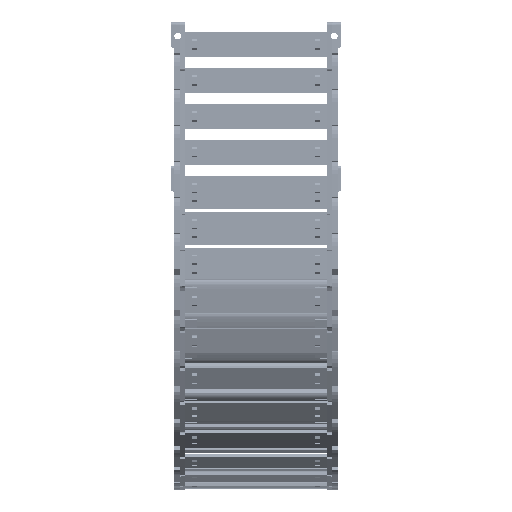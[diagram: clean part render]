
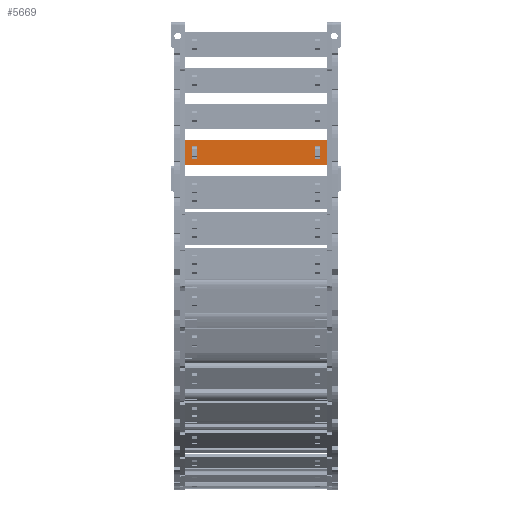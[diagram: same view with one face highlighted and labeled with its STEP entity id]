
A CAD part, left-side view. The second image highlights one B-rep face of the part: STEP entity #5669.
In plain terms, the highlighted planar face has unit normal (-1, 0, 0) as drawn and (0, 1, 0) by its records, which use the part's own axes.
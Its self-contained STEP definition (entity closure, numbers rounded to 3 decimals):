
#5089=DIRECTION('',(0.,0.,1.));
#5090=VECTOR('',#5089,15.8);
#5091=CARTESIAN_POINT('',(75.74,1.5,-7.9));
#5092=LINE('',#5091,#5090);
#5093=DIRECTION('',(-1.,0.,0.));
#5094=VECTOR('',#5093,90.5);
#5095=CARTESIAN_POINT('',(75.74,1.5,7.9));
#5096=LINE('',#5095,#5094);
#5097=DIRECTION('',(0.,0.,-1.));
#5098=VECTOR('',#5097,15.8);
#5099=CARTESIAN_POINT('',(-14.76,1.5,7.9));
#5100=LINE('',#5099,#5098);
#5101=DIRECTION('',(1.,0.,0.));
#5102=VECTOR('',#5101,3.648);
#5103=CARTESIAN_POINT('',(68.122,1.5,4.075));
#5104=LINE('',#5103,#5102);
#5105=DIRECTION('',(0.,0.,-1.));
#5106=VECTOR('',#5105,8.15);
#5107=CARTESIAN_POINT('',(71.77,1.5,4.075));
#5108=LINE('',#5107,#5106);
#5109=DIRECTION('',(-1.,0.,0.));
#5110=VECTOR('',#5109,3.648);
#5111=CARTESIAN_POINT('',(71.77,1.5,-4.075));
#5112=LINE('',#5111,#5110);
#5113=DIRECTION('',(0.,0.,-1.));
#5114=VECTOR('',#5113,8.15);
#5115=CARTESIAN_POINT('',(-7.142,1.5,4.075));
#5116=LINE('',#5115,#5114);
#5117=DIRECTION('',(-1.,0.,0.));
#5118=VECTOR('',#5117,3.648);
#5119=CARTESIAN_POINT('',(-7.142,1.5,-4.075));
#5120=LINE('',#5119,#5118);
#5121=DIRECTION('',(0.,0.,1.));
#5122=VECTOR('',#5121,8.15);
#5123=CARTESIAN_POINT('',(-10.79,1.5,-4.075));
#5124=LINE('',#5123,#5122);
#5125=DIRECTION('',(1.,0.,0.));
#5126=VECTOR('',#5125,3.648);
#5127=CARTESIAN_POINT('',(-10.79,1.5,4.075));
#5128=LINE('',#5127,#5126);
#5133=DIRECTION('',(-1.,0.,0.));
#5134=VECTOR('',#5133,90.5);
#5135=CARTESIAN_POINT('',(75.74,1.5,-7.9));
#5136=LINE('',#5135,#5134);
#5254=DIRECTION('',(0.,0.,-1.));
#5255=VECTOR('',#5254,8.15);
#5256=CARTESIAN_POINT('',(68.122,1.5,4.075));
#5257=LINE('',#5256,#5255);
#5439=CARTESIAN_POINT('',(71.77,1.5,4.075));
#5440=VERTEX_POINT('',#5439);
#5441=CARTESIAN_POINT('',(68.122,1.5,4.075));
#5442=VERTEX_POINT('',#5441);
#5483=CARTESIAN_POINT('',(68.122,1.5,-4.075));
#5484=VERTEX_POINT('',#5483);
#5485=CARTESIAN_POINT('',(71.77,1.5,-4.075));
#5486=VERTEX_POINT('',#5485);
#5487=CARTESIAN_POINT('',(75.74,1.5,7.9));
#5489=VERTEX_POINT('',#5487);
#5491=CARTESIAN_POINT('',(75.74,1.5,-7.9));
#5492=VERTEX_POINT('',#5491);
#5515=CARTESIAN_POINT('',(-7.142,1.5,4.075));
#5516=CARTESIAN_POINT('',(-7.142,1.5,-4.075));
#5517=VERTEX_POINT('',#5515);
#5518=VERTEX_POINT('',#5516);
#5519=CARTESIAN_POINT('',(-10.79,1.5,-4.075));
#5520=VERTEX_POINT('',#5519);
#5521=CARTESIAN_POINT('',(-10.79,1.5,4.075));
#5522=VERTEX_POINT('',#5521);
#5523=CARTESIAN_POINT('',(-14.76,1.5,7.9));
#5524=VERTEX_POINT('',#5523);
#5527=CARTESIAN_POINT('',(-14.76,1.5,-7.9));
#5528=VERTEX_POINT('',#5527);
#5638=CARTESIAN_POINT('',(107.48,1.5,10.061));
#5639=DIRECTION('',(0.,-1.,0.));
#5640=DIRECTION('',(0.,0.,-1.));
#5641=AXIS2_PLACEMENT_3D('',#5638,#5639,#5640);
#5642=PLANE('',#5641);
#5643=ORIENTED_EDGE('',*,*,#5577,.T.);
#5644=ORIENTED_EDGE('',*,*,#5603,.T.);
#5645=ORIENTED_EDGE('',*,*,#5616,.T.);
#5647=ORIENTED_EDGE('',*,*,#5646,.F.);
#5648=EDGE_LOOP('',(#5643,#5644,#5645,#5647));
#5649=FACE_OUTER_BOUND('',#5648,.F.);
#5651=ORIENTED_EDGE('',*,*,#5650,.F.);
#5652=ORIENTED_EDGE('',*,*,#5540,.T.);
#5654=ORIENTED_EDGE('',*,*,#5653,.T.);
#5656=ORIENTED_EDGE('',*,*,#5655,.T.);
#5657=EDGE_LOOP('',(#5651,#5652,#5654,#5656));
#5658=FACE_BOUND('',#5657,.F.);
#5660=ORIENTED_EDGE('',*,*,#5659,.T.);
#5662=ORIENTED_EDGE('',*,*,#5661,.T.);
#5664=ORIENTED_EDGE('',*,*,#5663,.T.);
#5666=ORIENTED_EDGE('',*,*,#5665,.T.);
#5667=EDGE_LOOP('',(#5660,#5662,#5664,#5666));
#5668=FACE_BOUND('',#5667,.F.);
#5669=ADVANCED_FACE('',(#5649,#5658,#5668),#5642,.F.);
#5540=EDGE_CURVE('',#5442,#5440,#5104,.T.);
#5577=EDGE_CURVE('',#5492,#5489,#5092,.T.);
#5603=EDGE_CURVE('',#5489,#5524,#5096,.T.);
#5616=EDGE_CURVE('',#5524,#5528,#5100,.T.);
#5646=EDGE_CURVE('',#5492,#5528,#5136,.T.);
#5650=EDGE_CURVE('',#5442,#5484,#5257,.T.);
#5653=EDGE_CURVE('',#5440,#5486,#5108,.T.);
#5655=EDGE_CURVE('',#5486,#5484,#5112,.T.);
#5659=EDGE_CURVE('',#5517,#5518,#5116,.T.);
#5661=EDGE_CURVE('',#5518,#5520,#5120,.T.);
#5663=EDGE_CURVE('',#5520,#5522,#5124,.T.);
#5665=EDGE_CURVE('',#5522,#5517,#5128,.T.);
